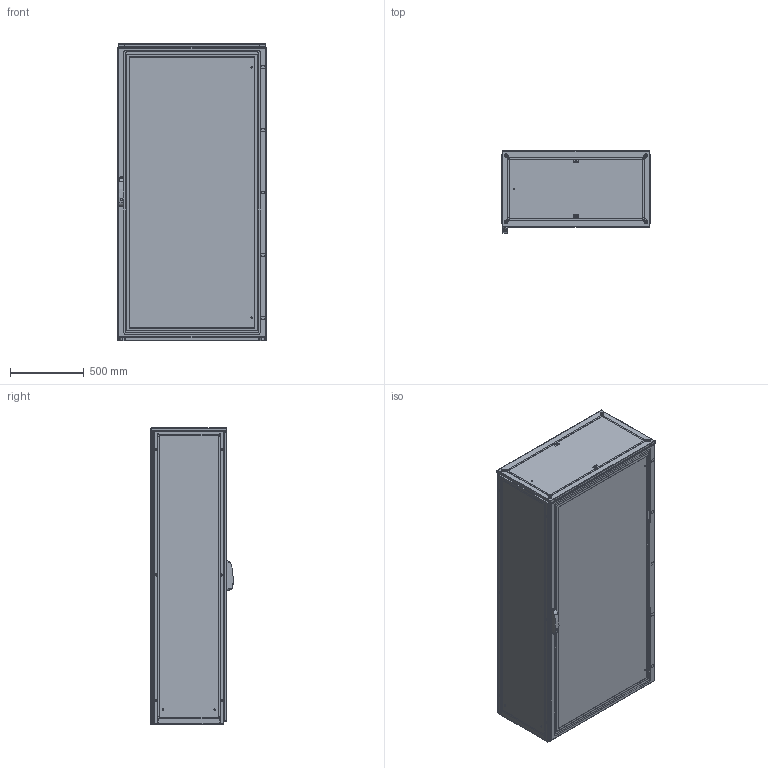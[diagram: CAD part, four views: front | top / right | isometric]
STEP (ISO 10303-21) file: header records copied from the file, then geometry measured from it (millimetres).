
FILE_DESCRIPTION(/* description */ ('STEP AP214'),/* implementation_level */ '2;1');
FILE_NAME(/* name */ 'ENUX102005PR-LOD350',/* time_stamp */ '2025-10-03T14:38:47+02:00',/* author */ ('License CC BY-ND 4.0'),/* organization */ ('CADENAS'),/* preprocessor_version */ 'ST-DEVELOPER v19.3',/* originating_system */ 'PARTsolutions',/* authorisation */ ' ');
FILE_SCHEMA (('AUTOMOTIVE_DESIGN {1 0 10303 214 3 1 1}'));
Length unit declared in the file: millimetre
Products named in the file (11): ENUX102005PR-LOD350; ENUX102005PR-LOD350_CON; ENUX102005PR-LOD350_floor1; ENUX102005PR-LOD350_floor2; Screw M12x30 architecture 350; ENUX102005PR-LOD350_side; ENUX102005PR-LOD350_top; ENUX102005PR-LOD350_back_door_r; ENUX102005PR-LOD350_back_door_l; ENUX102005PR-LOD350_door; ENUX102005PR-LOD350_handle
Assembly tree (20 placements, depth 2):
  ENUX102005PR-LOD350
    ENUX102005PR-LOD350_CON
    ENUX102005PR-LOD350_floor1  x4
    ENUX102005PR-LOD350_floor2  x4
    Screw M12x30 architecture 350  x4
    ENUX102005PR-LOD350_side  x2
    ENUX102005PR-LOD350_top
    ENUX102005PR-LOD350_back_door_r
    ENUX102005PR-LOD350_back_door_l
    ENUX102005PR-LOD350_door
    ENUX102005PR-LOD350_handle
Bounding box: 1012 x 557 x 2014.1 mm (x, y, z)
Volume: 24683382 mm3; surface area: 20729416.3 mm2
Topology: 20 solids, 20 shells, 2231 faces, 6216 edges, 4053 vertices
Faces by surface type: plane 1139, cylinder 892, cone 95, torus 88, sphere 17
Full cylindrical faces by diameter (mm): 4.5 x156, 6 x20, 6.8 x8, 7 x4, 9 x11, 12 x16, 13 x4, 14 x2, 17 x2, 18 x1, 21 x4, 28 x2
Entity records: 56553 total; most frequent: DIRECTION 9813, CARTESIAN_POINT 9757, ORIENTED_EDGE 9140, EDGE_CURVE 4570, AXIS2_PLACEMENT_3D 3521, VERTEX_POINT 3208, LINE 2771, VECTOR 2771
